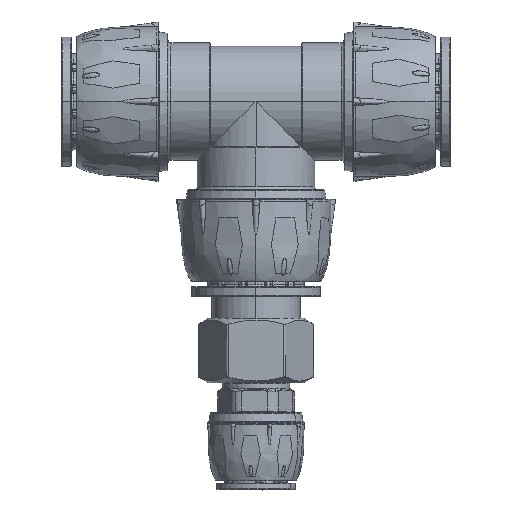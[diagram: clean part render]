
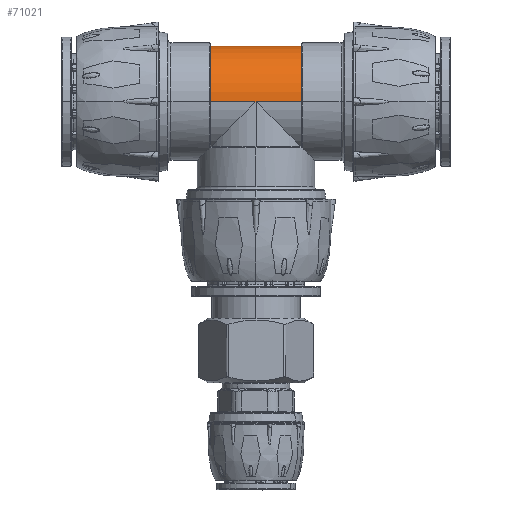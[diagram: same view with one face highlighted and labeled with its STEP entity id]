
A CAD part, top view. The second image highlights one B-rep face of the part: STEP entity #71021.
In plain terms, the highlighted cylindrical face has radius 17.65 mm (diameter 35.3 mm), a partial arc.
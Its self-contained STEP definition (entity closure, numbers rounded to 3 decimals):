
#1788 = CARTESIAN_POINT ( 'NONE',  ( 0., 0., -17.65 ) ) ;
#3947 = AXIS2_PLACEMENT_3D ( 'NONE', #88864, #39217, #78001 ) ;
#8293 = CIRCLE ( 'NONE', #3947, 17.65 ) ;
#8324 = EDGE_CURVE ( 'NONE', #115785, #85390, #8293, .T. ) ;
#9339 = VECTOR ( 'NONE', #11421, 1000. ) ;
#11421 = DIRECTION ( 'NONE',  ( 0., -1., 0. ) ) ;
#11884 = CARTESIAN_POINT ( 'NONE',  ( 0., 0., -17.65 ) ) ;
#15592 = EDGE_CURVE ( 'NONE', #74517, #65432, #75906, .T. ) ;
#16367 = LINE ( 'NONE', #38983, #114903 ) ;
#17953 = VERTEX_POINT ( 'NONE', #11884 ) ;
#21258 = CARTESIAN_POINT ( 'NONE',  ( 0., -14.3, 17.65 ) ) ;
#21629 = DIRECTION ( 'NONE',  ( 0., -1., 0. ) ) ;
#22609 = FACE_OUTER_BOUND ( 'NONE', #86648, .T. ) ;
#26738 = ORIENTED_EDGE ( 'NONE', *, *, #8324, .T. ) ;
#29017 = EDGE_CURVE ( 'NONE', #65432, #82683, #111914, .T. ) ;
#29461 = EDGE_CURVE ( 'NONE', #17953, #82683, #16367, .T. ) ;
#30076 = CARTESIAN_POINT ( 'NONE',  ( 0., 0., 0. ) ) ;
#30296 = VECTOR ( 'NONE', #109454, 1000. ) ;
#33600 = CARTESIAN_POINT ( 'NONE',  ( 0., 0., 17.65 ) ) ;
#36484 = CARTESIAN_POINT ( 'NONE',  ( 0., -14.3, -17.65 ) ) ;
#38983 = CARTESIAN_POINT ( 'NONE',  ( 0., 0., -17.65 ) ) ;
#39217 = DIRECTION ( 'NONE',  ( 0., -1., 0. ) ) ;
#41277 = CARTESIAN_POINT ( 'NONE',  ( 0., 14.3, 17.65 ) ) ;
#41460 = CARTESIAN_POINT ( 'NONE',  ( 0., 0., 17.65 ) ) ;
#43627 = DIRECTION ( 'NONE',  ( 0., 0., -1. ) ) ;
#55562 = CYLINDRICAL_SURFACE ( 'NONE', #100726, 17.65 ) ;
#55564 = AXIS2_PLACEMENT_3D ( 'NONE', #100773, #101563, #43627 ) ;
#65432 = VERTEX_POINT ( 'NONE', #21258 ) ;
#68923 = EDGE_CURVE ( 'NONE', #115785, #17953, #109403, .T. ) ;
#70148 = ORIENTED_EDGE ( 'NONE', *, *, #68923, .F. ) ;
#71021 = ADVANCED_FACE ( 'NONE', ( #22609 ), #55562, .T. ) ;
#74517 = VERTEX_POINT ( 'NONE', #41460 ) ;
#75906 = LINE ( 'NONE', #78821, #81914 ) ;
#78001 = DIRECTION ( 'NONE',  ( 0., 0., 1. ) ) ;
#78821 = CARTESIAN_POINT ( 'NONE',  ( 0., 0., 17.65 ) ) ;
#79608 = CARTESIAN_POINT ( 'NONE',  ( 0., 14.3, -17.65 ) ) ;
#81914 = VECTOR ( 'NONE', #21629, 1000. ) ;
#82683 = VERTEX_POINT ( 'NONE', #36484 ) ;
#83795 = DIRECTION ( 'NONE',  ( 0., -1., 0. ) ) ;
#85390 = VERTEX_POINT ( 'NONE', #41277 ) ;
#86648 = EDGE_LOOP ( 'NONE', ( #26738, #89144, #122387, #89592, #114586, #70148 ) ) ;
#88864 = CARTESIAN_POINT ( 'NONE',  ( 0., 14.3, 0. ) ) ;
#89144 = ORIENTED_EDGE ( 'NONE', *, *, #90937, .T. ) ;
#89592 = ORIENTED_EDGE ( 'NONE', *, *, #29017, .T. ) ;
#90937 = EDGE_CURVE ( 'NONE', #85390, #74517, #99025, .T. ) ;
#94919 = DIRECTION ( 'NONE',  ( 0., -1., 0. ) ) ;
#99025 = LINE ( 'NONE', #33600, #30296 ) ;
#100726 = AXIS2_PLACEMENT_3D ( 'NONE', #30076, #83795, #112943 ) ;
#100773 = CARTESIAN_POINT ( 'NONE',  ( 0., -14.3, 0. ) ) ;
#101563 = DIRECTION ( 'NONE',  ( 0., 1., 0. ) ) ;
#109403 = LINE ( 'NONE', #1788, #9339 ) ;
#109454 = DIRECTION ( 'NONE',  ( 0., -1., 0. ) ) ;
#111914 = CIRCLE ( 'NONE', #55564, 17.65 ) ;
#112943 = DIRECTION ( 'NONE',  ( 0., 0., -1. ) ) ;
#114586 = ORIENTED_EDGE ( 'NONE', *, *, #29461, .F. ) ;
#114903 = VECTOR ( 'NONE', #94919, 1000. ) ;
#115785 = VERTEX_POINT ( 'NONE', #79608 ) ;
#122387 = ORIENTED_EDGE ( 'NONE', *, *, #15592, .T. ) ;
